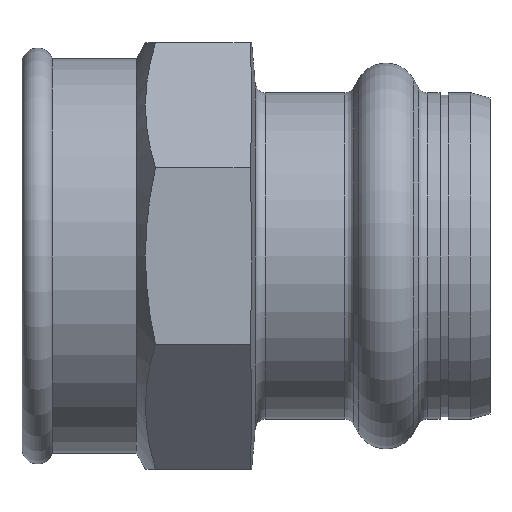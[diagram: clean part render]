
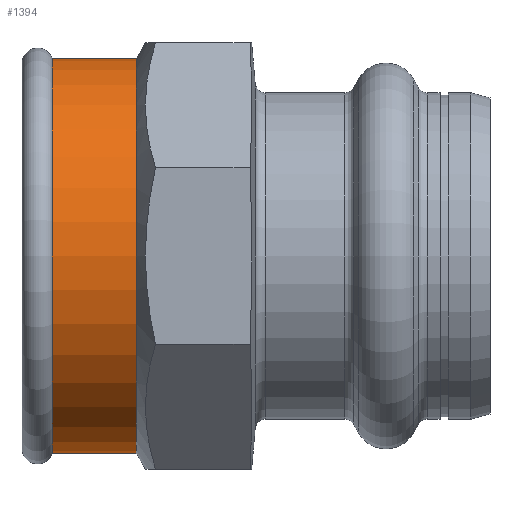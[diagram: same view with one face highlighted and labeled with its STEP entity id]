
A CAD part, left-side view. The second image highlights one B-rep face of the part: STEP entity #1394.
In plain terms, the highlighted cylindrical face has radius 19 mm (diameter 38 mm), a partial arc.
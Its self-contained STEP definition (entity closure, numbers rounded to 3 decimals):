
#30 = CARTESIAN_POINT ( 'NONE',  ( 0., 34., -19. ) ) ;
#38 = CARTESIAN_POINT ( 'NONE',  ( 0., 34., 0. ) ) ;
#57 = DIRECTION ( 'NONE',  ( 0., -1., 0. ) ) ;
#74 = DIRECTION ( 'NONE',  ( 0., 0., -1. ) ) ;
#75 = DIRECTION ( 'NONE',  ( 0., -1., 0. ) ) ;
#114 = CARTESIAN_POINT ( 'NONE',  ( 0., 34., 19. ) ) ;
#287 = DIRECTION ( 'NONE',  ( 0., -1., 0. ) ) ;
#300 = CARTESIAN_POINT ( 'NONE',  ( 0., -17.811, -19. ) ) ;
#309 = LINE ( 'NONE', #1557, #1758 ) ;
#395 = CIRCLE ( 'NONE', #1246, 19. ) ;
#404 = EDGE_CURVE ( 'NONE', #1259, #1018, #309, .T. ) ;
#485 = AXIS2_PLACEMENT_3D ( 'NONE', #546, #75, #593 ) ;
#531 = DIRECTION ( 'NONE',  ( 0., 0., -1. ) ) ;
#546 = CARTESIAN_POINT ( 'NONE',  ( 0., -17.811, 0. ) ) ;
#593 = DIRECTION ( 'NONE',  ( 0., 0., -1. ) ) ;
#597 = AXIS2_PLACEMENT_3D ( 'NONE', #38, #1355, #531 ) ;
#834 = EDGE_CURVE ( 'NONE', #1018, #1821, #1699, .T. ) ;
#954 = EDGE_CURVE ( 'NONE', #1259, #1125, #395, .T. ) ;
#1018 = VERTEX_POINT ( 'NONE', #114 ) ;
#1031 = CARTESIAN_POINT ( 'NONE',  ( 0., 42.086, 19. ) ) ;
#1048 = ORIENTED_EDGE ( 'NONE', *, *, #834, .F. ) ;
#1101 = ORIENTED_EDGE ( 'NONE', *, *, #404, .F. ) ;
#1125 = VERTEX_POINT ( 'NONE', #1757 ) ;
#1161 = DIRECTION ( 'NONE',  ( 0., -1., 0. ) ) ;
#1200 = CARTESIAN_POINT ( 'NONE',  ( 0., 42.086, 0. ) ) ;
#1246 = AXIS2_PLACEMENT_3D ( 'NONE', #1200, #57, #74 ) ;
#1259 = VERTEX_POINT ( 'NONE', #1031 ) ;
#1327 = ORIENTED_EDGE ( 'NONE', *, *, #1725, .T. ) ;
#1355 = DIRECTION ( 'NONE',  ( 0., -1., 0. ) ) ;
#1394 = ADVANCED_FACE ( 'NONE', ( #1561 ), #1512, .T. ) ;
#1512 = CYLINDRICAL_SURFACE ( 'NONE', #485, 19. ) ;
#1557 = CARTESIAN_POINT ( 'NONE',  ( 0., -17.811, 19. ) ) ;
#1561 = FACE_OUTER_BOUND ( 'NONE', #1633, .T. ) ;
#1633 = EDGE_LOOP ( 'NONE', ( #1101, #1647, #1327, #1048 ) ) ;
#1647 = ORIENTED_EDGE ( 'NONE', *, *, #954, .T. ) ;
#1693 = VECTOR ( 'NONE', #287, 1000. ) ;
#1699 = CIRCLE ( 'NONE', #597, 19. ) ;
#1725 = EDGE_CURVE ( 'NONE', #1125, #1821, #1734, .T. ) ;
#1734 = LINE ( 'NONE', #300, #1693 ) ;
#1757 = CARTESIAN_POINT ( 'NONE',  ( 0., 42.086, -19. ) ) ;
#1758 = VECTOR ( 'NONE', #1161, 1000. ) ;
#1821 = VERTEX_POINT ( 'NONE', #30 ) ;
